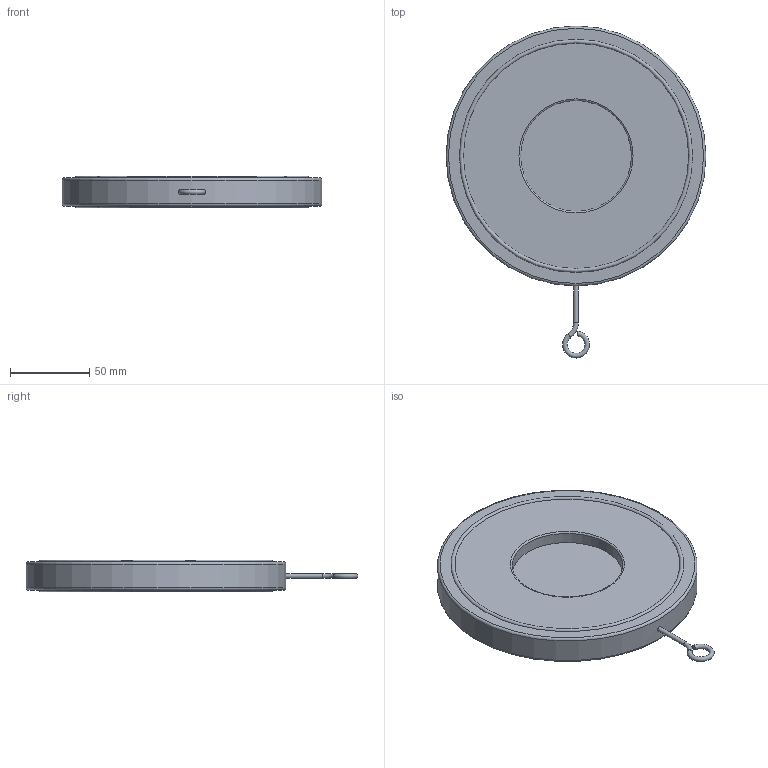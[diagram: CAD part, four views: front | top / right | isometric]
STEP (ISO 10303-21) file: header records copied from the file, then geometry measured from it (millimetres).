
FILE_DESCRIPTION( ( 'Unknown' ), '1' );
FILE_NAME( 'C:/Documents and Settings/Klaus/My Documents/Rootsi BPS 3D, Klaus/BPS 6505 swing check valve/STEP/BPS6505100 swing check valve DN100.stp', 'Unknown', ( 'Unknown' ), ( 'Unknown' ), 'PSStep 10.1', 'Unknown', ' ' );
FILE_SCHEMA( ( 'AUTOMOTIVE_DESIGN { 1 0 10303 214 1 1 1 1 }' ) );
Length unit declared in the file: millimetre
Products named in the file (1): 1
Bounding box: 164 x 209.5 x 20 mm (x, y, z)
Volume: 341667.2 mm3; surface area: 60711.7 mm2
Topology: 1 solids, 1 shells, 215 faces, 525 edges, 345 vertices
Faces by surface type: plane 143, extrusion 49, cylinder 13, torus 9, cone 1
Full cylindrical faces by diameter (mm): 3 x1, 10 x2, 70 x1, 164 x1
Entity records: 9462 total; most frequent: CARTESIAN_POINT 3259, ORIENTED_EDGE 994, DIRECTION 659, EDGE_CURVE 497, VERTEX_POINT 339, B_SPLINE_CURVE_WITH_KNOTS 312, EDGE_LOOP 274, VECTOR 241
